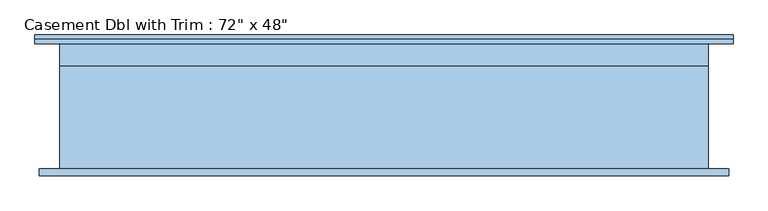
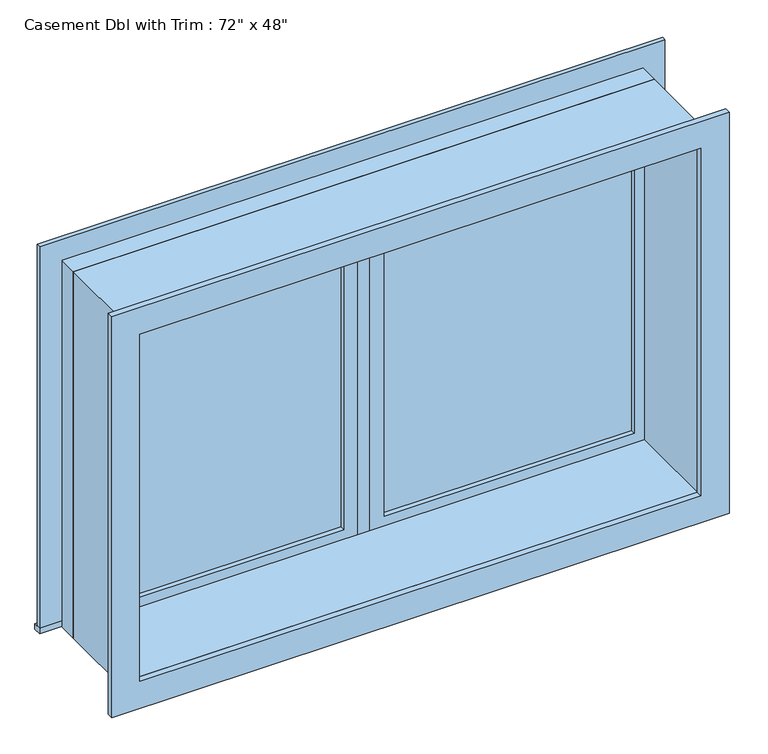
"""IFC4 building model written with IfcOpenShell, lengths in millimetres: window geometry."""

from ifc_helpers import new_model, si_unit, frame, origin, place, context, project, spatial, polyline, outline, extrude, source, transform, mapped, element, save


def window_565d5888(model_context):
    return source(origin(), model_context, "Body", "SweptSolid", [
        extrude(outline(polyline([(63.5, 160.3375), (850.9, 160.3375), (850.9, 147.6375), (63.5, 147.6375), (63.5, 160.3375)])), frame((0.0, 0.0, 1282.7), z_axis=(0.0, 0.0, 1.0), x_axis=(1.0, 0.0, 0.0)), (0.0, 0.0, 1.0), 1092.2),
        extrude(outline(polyline([(2419.35, 19.05), (1238.25, 19.05), (1238.25, 895.35), (2419.35, 895.35), (2419.35, 19.05)]), holes=[polyline([(2374.9, 63.5), (2374.9, 850.9), (1282.7, 850.9), (1282.7, 63.5), (2374.9, 63.5)])]), frame((0.0, 131.7625, 0.0), z_axis=(0.0, 1.0, 0.0), x_axis=(0.0, 0.0, 1.0)), (0.0, 0.0, 1.0), 44.45),
        extrude(outline(polyline([(19.05, 131.7625), (-19.05, 131.7625), (-19.05, 195.2625), (19.05, 195.2625), (19.05, 131.7625)])), frame((0.0, 0.0, 1238.25), z_axis=(0.0, 0.0, 1.0), x_axis=(1.0, 0.0, 0.0)), (0.0, 0.0, 1.0), 1181.1),
        extrude(outline(polyline([(-984.25, 220.6625), (984.25, 220.6625), (984.25, 195.2625), (-984.25, 195.2625), (-984.25, 220.6625)])), frame((0.0, 0.0, 1219.2), z_axis=(0.0, 0.0, 1.0), x_axis=(1.0, 0.0, 0.0)), (0.0, 0.0, 1.0), 19.05),
        extrude(outline(polyline([(2419.35, -895.35), (2419.35, 895.35), (1238.25, 895.35), (1238.25, 984.25), (2508.25, 984.25), (2508.25, -984.25), (1238.25, -984.25), (1238.25, -895.35), (2419.35, -895.35)])), frame((0.0, 195.2625, 0.0), z_axis=(0.0, 1.0, 0.0), x_axis=(0.0, 0.0, 1.0)), (0.0, 0.0, 1.0), 12.7),
        extrude(outline(polyline([(2495.55, 971.55), (2495.55, -971.55), (1162.05, -971.55), (1162.05, 971.55), (2495.55, 971.55)]), holes=[polyline([(2406.65, 882.65), (1250.95, 882.65), (1250.95, -882.65), (2406.65, -882.65), (2406.65, 882.65)])]), frame((0.0, -176.2125, 0.0), z_axis=(0.0, 1.0, 0.0), x_axis=(0.0, 0.0, 1.0)), (0.0, 0.0, 1.0), 19.05),
        extrude(outline(polyline([(-63.5, 147.6375), (-850.9, 147.6375), (-850.9, 160.3375), (-63.5, 160.3375), (-63.5, 147.6375)])), frame((0.0, 0.0, 1282.7), z_axis=(0.0, 0.0, 1.0), x_axis=(1.0, 0.0, 0.0)), (0.0, 0.0, 1.0), 1092.2),
        extrude(outline(polyline([(2419.35, -895.35), (1238.25, -895.35), (1238.25, -19.05), (2419.35, -19.05), (2419.35, -895.35)]), holes=[polyline([(2374.9, -850.9), (2374.9, -63.5), (1282.7, -63.5), (1282.7, -850.9), (2374.9, -850.9)])]), frame((0.0, 131.7625, 0.0), z_axis=(0.0, 1.0, 0.0), x_axis=(0.0, 0.0, 1.0)), (0.0, 0.0, 1.0), 44.45),
        extrude(outline(polyline([(2438.4, -914.4), (1219.2, -914.4), (1219.2, 914.4), (2438.4, 914.4), (2438.4, -914.4)]), holes=[polyline([(2406.65, -882.65), (2406.65, 882.65), (1250.95, 882.65), (1250.95, -882.65), (2406.65, -882.65)])]), frame((0.0, -157.1625, 0.0), z_axis=(0.0, 1.0, 0.0), x_axis=(0.0, 0.0, 1.0)), (0.0, 0.0, 1.0), 288.925),
        extrude(outline(polyline([(2438.4, 914.4), (2438.4, -914.4), (1219.2, -914.4), (1219.2, 914.4), (2438.4, 914.4)]), holes=[polyline([(2419.35, 895.35), (1238.25, 895.35), (1238.25, -895.35), (2419.35, -895.35), (2419.35, 895.35)])]), frame((0.0, 131.7625, 0.0), z_axis=(0.0, 1.0, 0.0), x_axis=(0.0, 0.0, 1.0)), (0.0, 0.0, 1.0), 63.5),
    ])


if __name__ == "__main__":
    model = new_model("IFC4")
    model_context = context("Model", 3, world=origin())
    ifc_project = project(units=[si_unit("LENGTHUNIT", "METRE", prefix="MILLI")], contexts=[model_context])
    site = spatial("IfcSite", under=ifc_project)
    building = spatial("IfcBuilding", under=site)
    placement = place(None, origin())
    window_shape = window_565d5888(model_context)
    element("IfcWindow", 1, ObjectType="Casement Dbl with Trim : 72\" x 48\"", at=placement, inside=building, context=model_context, shape_type="MappedRepresentation", body=[
        mapped(window_shape, transform((0.0, 0.0, 0.0), x_axis=(1.0, 0.0, 0.0), y_axis=(0.0, 1.0, 0.0), z_axis=(0.0, 0.0, 1.0))),
    ])
    save(model, "model.ifc")
